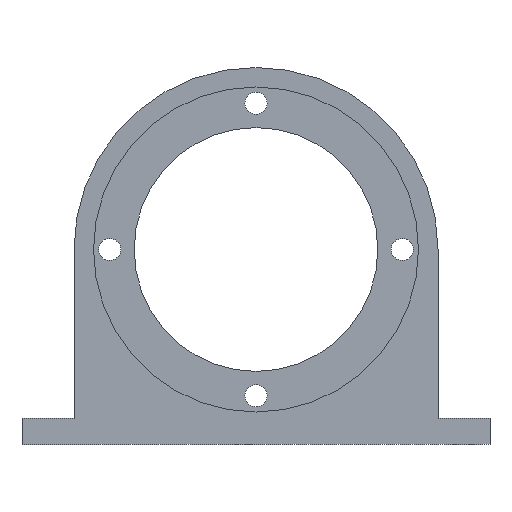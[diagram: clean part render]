
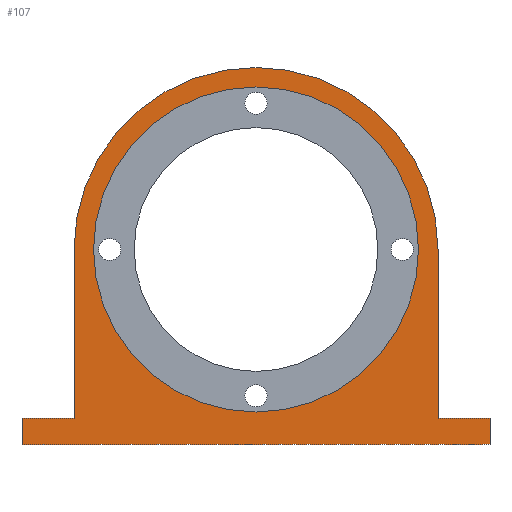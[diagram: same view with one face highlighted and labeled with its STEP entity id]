
A CAD part, front view. The second image highlights one B-rep face of the part: STEP entity #107.
In plain terms, the highlighted planar face has unit normal (0, -1, 0).
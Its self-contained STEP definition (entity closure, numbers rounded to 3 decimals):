
#46=PLANE('',#392);
#59=LINE('',#525,#81);
#63=LINE('',#535,#85);
#68=LINE('',#552,#90);
#70=LINE('',#557,#92);
#71=LINE('',#559,#93);
#72=LINE('',#561,#94);
#73=LINE('',#563,#95);
#81=VECTOR('',#426,1.);
#85=VECTOR('',#434,1.);
#90=VECTOR('',#449,1.);
#92=VECTOR('',#455,1.);
#93=VECTOR('',#458,1.);
#94=VECTOR('',#459,1.);
#95=VECTOR('',#460,1.);
#107=ADVANCED_FACE('',(#136,#137),#46,.F.);
#136=FACE_BOUND('',#176,.T.);
#137=FACE_BOUND('',#177,.T.);
#176=EDGE_LOOP('',(#233));
#177=EDGE_LOOP('',(#234,#235,#236,#237,#238,#239,#240,#241));
#233=ORIENTED_EDGE('',*,*,#321,.T.);
#234=ORIENTED_EDGE('',*,*,#324,.T.);
#235=ORIENTED_EDGE('',*,*,#329,.T.);
#236=ORIENTED_EDGE('',*,*,#341,.T.);
#237=ORIENTED_EDGE('',*,*,#342,.T.);
#238=ORIENTED_EDGE('',*,*,#343,.T.);
#239=ORIENTED_EDGE('',*,*,#333,.T.);
#240=ORIENTED_EDGE('',*,*,#337,.T.);
#241=ORIENTED_EDGE('',*,*,#340,.T.);
#289=VERTEX_POINT('',#518);
#292=VERTEX_POINT('',#524);
#293=VERTEX_POINT('',#526);
#296=VERTEX_POINT('',#534);
#300=VERTEX_POINT('',#543);
#301=VERTEX_POINT('',#545);
#303=VERTEX_POINT('',#551);
#305=VERTEX_POINT('',#560);
#306=VERTEX_POINT('',#562);
#321=EDGE_CURVE('',#289,#289,#361,.T.);
#324=EDGE_CURVE('',#293,#292,#59,.T.);
#329=EDGE_CURVE('',#292,#296,#63,.T.);
#333=EDGE_CURVE('',#301,#300,#365,.T.);
#337=EDGE_CURVE('',#300,#303,#68,.T.);
#340=EDGE_CURVE('',#303,#293,#70,.T.);
#341=EDGE_CURVE('',#296,#305,#71,.T.);
#342=EDGE_CURVE('',#305,#306,#72,.T.);
#343=EDGE_CURVE('',#306,#301,#73,.T.);
#361=CIRCLE('',#380,25.);
#365=CIRCLE('',#387,28.);
#380=AXIS2_PLACEMENT_3D('',#517,#420,#421);
#387=AXIS2_PLACEMENT_3D('',#544,#442,#443);
#392=AXIS2_PLACEMENT_3D('',#564,#461,#462);
#420=DIRECTION('',(0.,1.,0.));
#421=DIRECTION('',(1.,0.,0.));
#426=DIRECTION('',(0.,0.,-1.));
#434=DIRECTION('',(1.,0.,0.));
#442=DIRECTION('',(0.,-1.,0.));
#443=DIRECTION('',(1.,0.,0.));
#449=DIRECTION('',(0.,0.,-1.));
#455=DIRECTION('',(-1.,0.,0.));
#458=DIRECTION('',(0.,0.,1.));
#459=DIRECTION('',(-1.,0.,0.));
#460=DIRECTION('',(0.,0.,1.));
#461=DIRECTION('',(0.,1.,0.));
#462=DIRECTION('',(0.,0.,1.));
#517=CARTESIAN_POINT('',(450.,260.,402.));
#518=CARTESIAN_POINT('',(475.,260.,402.));
#524=CARTESIAN_POINT('',(414.,260.,372.));
#525=CARTESIAN_POINT('',(414.,260.,376.));
#526=CARTESIAN_POINT('',(414.,260.,376.));
#534=CARTESIAN_POINT('',(486.,260.,372.));
#535=CARTESIAN_POINT('',(414.,260.,372.));
#543=CARTESIAN_POINT('',(422.,260.,402.));
#544=CARTESIAN_POINT('',(450.,260.,402.));
#545=CARTESIAN_POINT('',(478.,260.,402.));
#551=CARTESIAN_POINT('',(422.,260.,376.));
#552=CARTESIAN_POINT('',(422.,260.,402.));
#557=CARTESIAN_POINT('',(422.,260.,376.));
#559=CARTESIAN_POINT('',(486.,260.,376.));
#560=CARTESIAN_POINT('',(486.,260.,376.));
#561=CARTESIAN_POINT('',(478.,260.,376.));
#562=CARTESIAN_POINT('',(478.,260.,376.));
#563=CARTESIAN_POINT('',(478.,260.,402.));
#564=CARTESIAN_POINT('',(450.,260.,402.));
